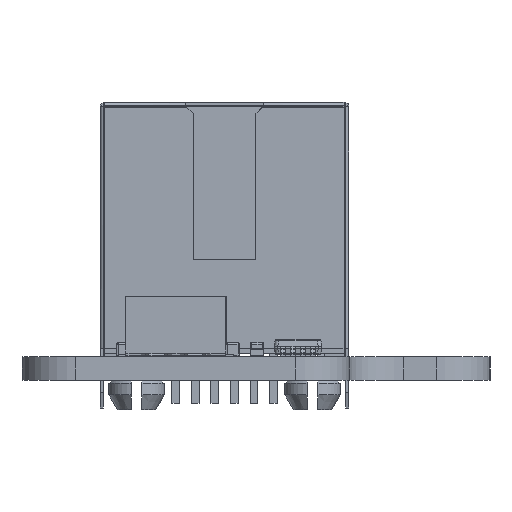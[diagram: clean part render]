
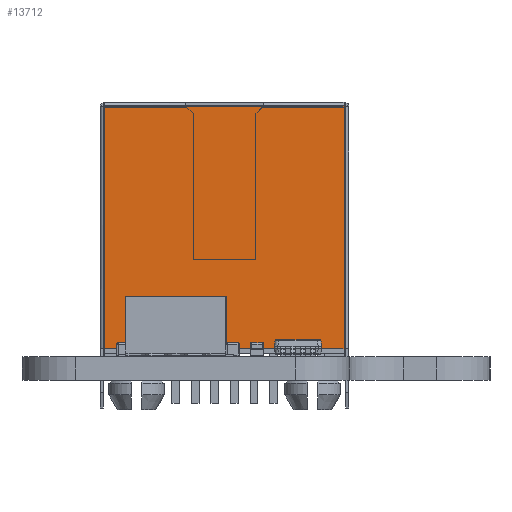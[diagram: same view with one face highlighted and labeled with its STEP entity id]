
A CAD part, left-side view. The second image highlights one B-rep face of the part: STEP entity #13712.
In plain terms, the highlighted planar face has unit normal (-1, 0, 0) as drawn and (0, 0, -1) by its records, which use the part's own axes.
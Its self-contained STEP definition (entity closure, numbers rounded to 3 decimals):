
#11132=FACE_OUTER_BOUND('NONE',#11838,.T.);
#11838=EDGE_LOOP('NONE',(#18831,#19284,#17867,#18363,#19023,#18932));
#12877=PLANE('NONE',#15675);
#13712=ADVANCED_FACE('NONE',(#11132),#12877,.F.);
#15675=AXIS2_PLACEMENT_3D('NONE',#43044,#34698,#35420);
#17867=ORIENTED_EDGE('NONE',*,*,#22067,.T.);
#18363=ORIENTED_EDGE('NONE',*,*,#22015,.F.);
#18831=ORIENTED_EDGE('NONE',*,*,#22875,.T.);
#18932=ORIENTED_EDGE('NONE',*,*,#22566,.F.);
#19023=ORIENTED_EDGE('NONE',*,*,#22309,.F.);
#19284=ORIENTED_EDGE('NONE',*,*,#22419,.F.);
#22015=EDGE_CURVE('NONE',#30940,#31089,#28563,.T.);
#22067=EDGE_CURVE('NONE',#31249,#31089,#28535,.T.);
#22309=EDGE_CURVE('NONE',#30807,#30940,#28690,.T.);
#22419=EDGE_CURVE('NONE',#31249,#30906,#28215,.T.);
#22566=EDGE_CURVE('NONE',#31119,#30807,#28351,.T.);
#22875=EDGE_CURVE('NONE',#31119,#30906,#28288,.T.);
#25022=VECTOR('NONE',#34669,1000.);
#25302=VECTOR('NONE',#35440,1000.);
#25406=VECTOR('NONE',#34359,1000.);
#25559=VECTOR('NONE',#34265,1000.);
#25633=VECTOR('NONE',#34120,1000.);
#25675=VECTOR('NONE',#34239,1000.);
#28215=LINE('NONE',#44617,#25559);
#28288=LINE('NONE',#44014,#25633);
#28351=LINE('NONE',#43342,#25022);
#28535=LINE('NONE',#43587,#25675);
#28563=LINE('NONE',#42321,#25302);
#28690=LINE('NONE',#43845,#25406);
#30807=VERTEX_POINT('NONE',#43607);
#30906=VERTEX_POINT('NONE',#43459);
#30940=VERTEX_POINT('NONE',#43169);
#31089=VERTEX_POINT('NONE',#43479);
#31119=VERTEX_POINT('NONE',#44278);
#31249=VERTEX_POINT('NONE',#44498);
#34120=DIRECTION('NONE',(0.,-1.,0.));
#34239=DIRECTION('NONE',(0.,1.,0.));
#34265=DIRECTION('NONE',(1.,0.,0.));
#34359=DIRECTION('NONE',(-1.,0.,0.));
#34669=DIRECTION('NONE',(-1.,0.,0.));
#34698=DIRECTION('NONE',(0.,0.,1.));
#35420=DIRECTION('NONE',(0.,-1.,0.));
#35440=DIRECTION('NONE',(-1.,0.,0.));
#42321=CARTESIAN_POINT('NONE',(-8.075,-0.25,-8.35));
#43044=CARTESIAN_POINT('NONE',(0.,0.,
-8.35));
#43169=CARTESIAN_POINT('NONE',(-2.55,-0.25,-8.35));
#43342=CARTESIAN_POINT('NONE',(-8.075,-0.25,-8.35));
#43459=CARTESIAN_POINT('NONE',(7.825,-16.,-8.35));
#43479=CARTESIAN_POINT('NONE',(-7.825,-0.25,-8.35));
#43587=CARTESIAN_POINT('NONE',(-7.825,-16.3,-8.35));
#43607=CARTESIAN_POINT('NONE',(2.55,-0.25,-8.35));
#43845=CARTESIAN_POINT('NONE',(2.55,-0.25,-8.35));
#44014=CARTESIAN_POINT('NONE',(7.825,-0.25,-8.35));
#44278=CARTESIAN_POINT('NONE',(7.825,-0.25,-8.35));
#44498=CARTESIAN_POINT('NONE',(-7.825,-16.,-8.35));
#44617=CARTESIAN_POINT('NONE',(-8.078,-16.,-8.35));
